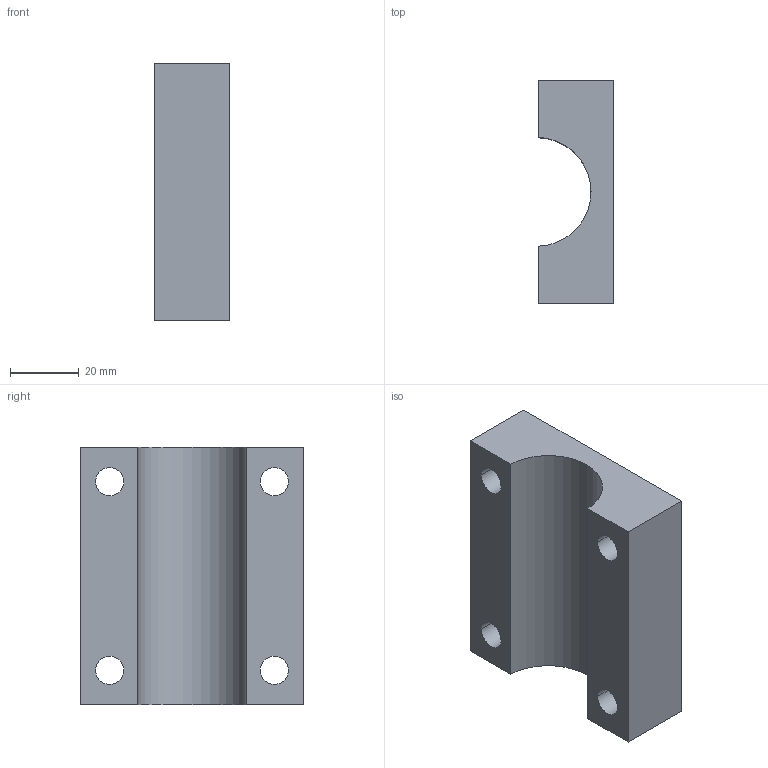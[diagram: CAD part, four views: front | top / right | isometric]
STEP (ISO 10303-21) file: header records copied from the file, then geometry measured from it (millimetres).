
FILE_DESCRIPTION(/* description */ ('(C) Elphel, Inc. 2011. Licensed under CERN OHL v.1.1 or later, see http://ohwr.org/cernohl'),/* implementation_level */ '2;1');
FILE_NAME(/* name */ '0353-22-09',/* time_stamp */ '2011-10-13T17:02:35-06:00',/* author */ (''),/* organization */ ('Elphel, Inc'),/* preprocessor_version */ 'ST-DEVELOPER v12',/* originating_system */ 'VariCAD 2010-3.03; kernel version (20100102)',/* authorisation */ '');
FILE_SCHEMA (('AUTOMOTIVE_DESIGN'));
Length unit declared in the file: millimetre
Products named in the file (1): Part
Bounding box: 22 x 65 x 75 mm (x, y, z)
Volume: 69061 mm3; surface area: 19222.4 mm2
Topology: 1 solids, 1 shells, 28 faces, 66 edges, 44 vertices
Faces by surface type: cylinder 17, plane 11
Entity records: 867 total; most frequent: DIRECTION 160, CARTESIAN_POINT 140, ORIENTED_EDGE 132, EDGE_CURVE 66, AXIS2_PLACEMENT_3D 64, VERTEX_POINT 44, EDGE_LOOP 40, CIRCLE 34
